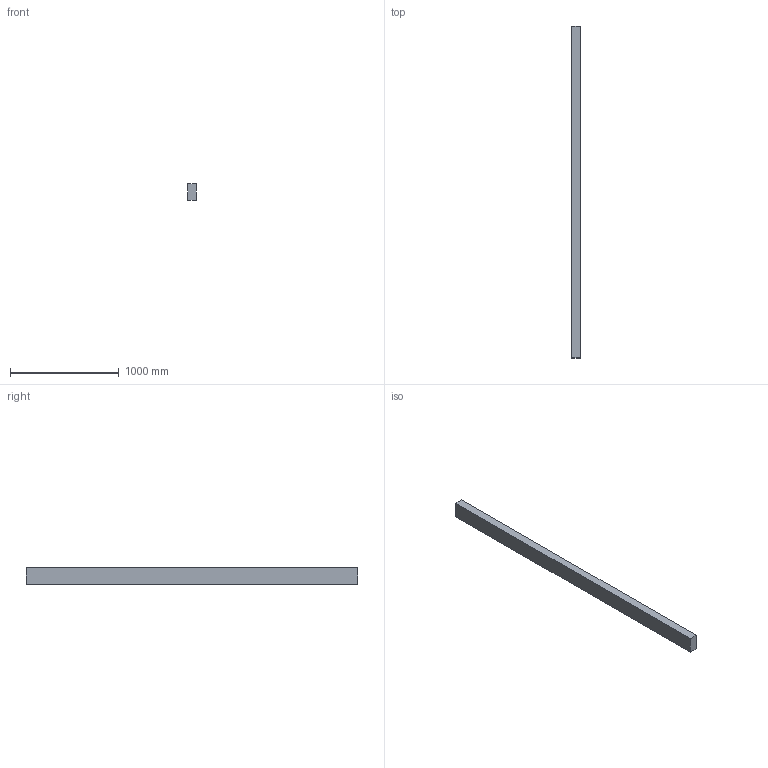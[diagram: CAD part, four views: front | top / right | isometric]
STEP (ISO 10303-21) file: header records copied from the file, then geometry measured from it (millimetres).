
FILE_DESCRIPTION(/* description */ (''),/* implementation_level */ '2;1');
FILE_NAME(/* name */ '3x6x120',/* time_stamp */ '2024-09-20T11:44:00-05:00',/* author */ (''),/* organization */ (''),/* preprocessor_version */ 'ST-DEVELOPER v19.2',/* originating_system */ 'Rhino 8.5',/* authorisation */ '');
FILE_SCHEMA (('CONFIG_CONTROL_DESIGN'));
Length unit declared in the file: inch
Products named in the file (1): Document
Bounding box: 76.2 x 3048 x 152.4 mm (x, y, z)
Volume: 35396058.2 mm3; surface area: 1416771.4 mm2
Topology: 1 solids, 1 shells, 6 faces, 12 edges, 8 vertices
Faces by surface type: plane 6
Entity records: 226 total; most frequent: CARTESIAN_POINT 40, ORIENTED_EDGE 24, EDGE_CURVE 12, B_SPLINE_CURVE_WITH_KNOTS 12, DIRECTION 10, VERTEX_POINT 8, AXIS2_PLACEMENT_3D 8, ORGANIZATION 7
